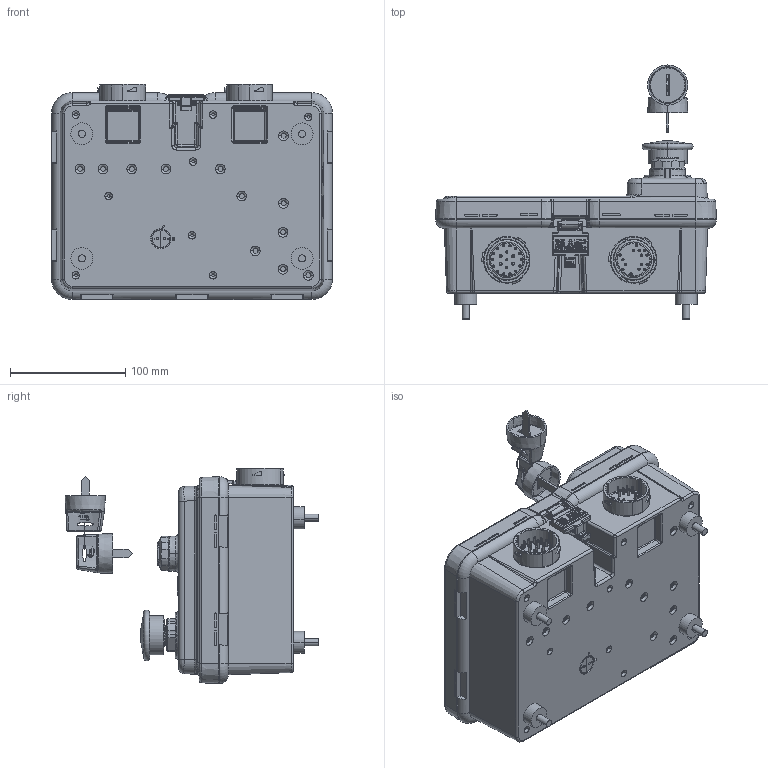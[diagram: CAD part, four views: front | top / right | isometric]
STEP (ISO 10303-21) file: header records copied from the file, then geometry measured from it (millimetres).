
FILE_DESCRIPTION (( 'STEP AP203' ), '1' );
FILE_NAME ('POWERCORE TEC-10.STEP', '2016-03-09T17:42:48', ( '' ), ( '' ), 'SwSTEP 2.0', 'SolidWorks 2015', '' );
FILE_SCHEMA (( 'CONFIG_CONTROL_DESIGN' ));
Products named in the file (1): POWERCORE TEC-10
Bounding box: 243.48 x 220.21 x 186.5 mm (x, y, z)
Volume: 25071.7 mm3; surface area: 218369 mm2
Topology: 14 solids, 15 shells, 6644 faces, 16632 edges, 10429 vertices
Faces by surface type: plane 2888, bspline 1558, cylinder 1344, cone 351, torus 297, sphere 206
Entity records: 265393 total; most frequent: CARTESIAN_POINT 118512, ORIENTED_EDGE 33176, DIRECTION 26442, EDGE_CURVE 16588, VERTEX_POINT 10429, VECTOR 8940, LINE 8940, AXIS2_PLACEMENT_3D 8751
